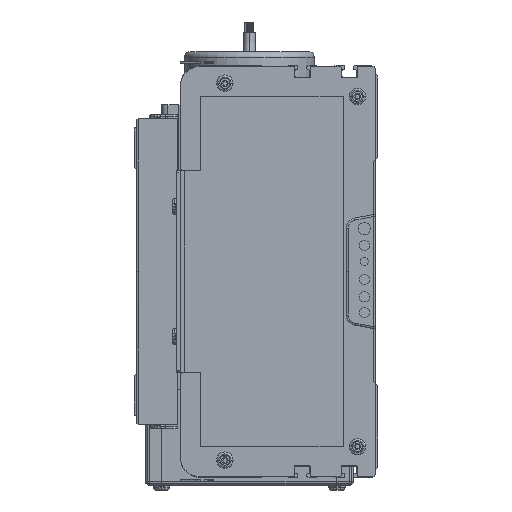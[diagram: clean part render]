
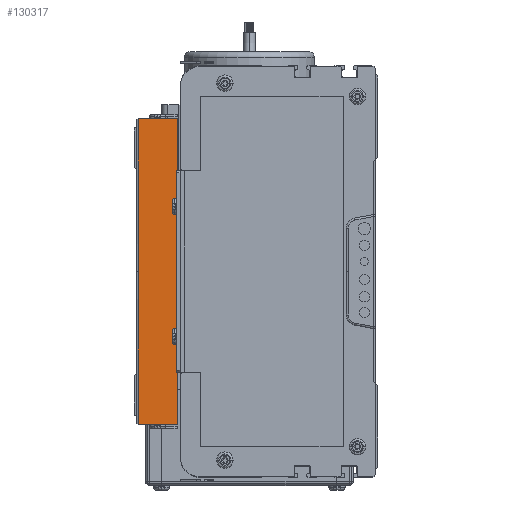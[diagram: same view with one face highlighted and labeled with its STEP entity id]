
A CAD part, left-side view. The second image highlights one B-rep face of the part: STEP entity #130317.
In plain terms, the highlighted planar face has unit normal (-1, 0, 0).
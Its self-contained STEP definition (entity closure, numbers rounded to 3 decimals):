
#25300 = CARTESIAN_POINT ( 'NONE',  ( 0., 0., 75. ) ) ;
#25711 = DIRECTION ( 'NONE',  ( 0., 0., 1. ) ) ;
#25712 = CARTESIAN_POINT ( 'NONE',  ( 0., 0., 0. ) ) ;
#25752 = VECTOR ( 'NONE', #25711, 1000. ) ;
#25764 = LINE ( 'NONE', #25712, #25752 ) ;
#27702 = DIRECTION ( 'NONE',  ( 0., -1., 0. ) ) ;
#27703 = VECTOR ( 'NONE', #27702, 1000. ) ;
#27704 = CARTESIAN_POINT ( 'NONE',  ( 0., 20., 75. ) ) ;
#27705 = LINE ( 'NONE', #27704, #27703 ) ;
#27715 = CARTESIAN_POINT ( 'NONE',  ( 0., 19., 75. ) ) ;
#31171 = DIRECTION ( 'NONE',  ( 0., 0., -1. ) ) ;
#31172 = VECTOR ( 'NONE', #31171, 1000. ) ;
#31173 = CARTESIAN_POINT ( 'NONE',  ( 0., 19., 0. ) ) ;
#31174 = LINE ( 'NONE', #31173, #31172 ) ;
#31254 = CARTESIAN_POINT ( 'NONE',  ( 0., 19., -75. ) ) ;
#35200 = EDGE_CURVE ( 'NONE', #44578, #130312, #31174, .T. ) ;
#35356 = VERTEX_POINT ( 'NONE', #31254 ) ;
#43469 = VERTEX_POINT ( 'NONE', #25300 ) ;
#44110 = EDGE_CURVE ( 'NONE', #82960, #43469, #25764, .T. ) ;
#44578 = VERTEX_POINT ( 'NONE', #27715 ) ;
#44588 = EDGE_CURVE ( 'NONE', #44578, #43469, #27705, .T. ) ;
#49512 = CARTESIAN_POINT ( 'NONE',  ( 0., 19., 0. ) ) ;
#49788 = DIRECTION ( 'NONE',  ( 0., 0., -1. ) ) ;
#49789 = DIRECTION ( 'NONE',  ( 1., 0., 0. ) ) ;
#49791 = CARTESIAN_POINT ( 'NONE',  ( 0., 20., 0. ) ) ;
#49792 = AXIS2_PLACEMENT_3D ( 'NONE', #49791, #49789, #49788 ) ;
#49813 = PLANE ( 'NONE',  #49792 ) ;
#49818 = FACE_OUTER_BOUND ( 'NONE', #131340, .T. ) ;
#50072 = DIRECTION ( 'NONE',  ( 0., 0., -1. ) ) ;
#50073 = VECTOR ( 'NONE', #50072, 1000. ) ;
#50075 = CARTESIAN_POINT ( 'NONE',  ( 0., 19., 0. ) ) ;
#50077 = LINE ( 'NONE', #50075, #50073 ) ;
#58009 = DIRECTION ( 'NONE',  ( 0., -1., 0. ) ) ;
#58010 = VECTOR ( 'NONE', #58009, 1000. ) ;
#58011 = CARTESIAN_POINT ( 'NONE',  ( 0., 20., -75. ) ) ;
#58012 = LINE ( 'NONE', #58011, #58010 ) ;
#82960 = VERTEX_POINT ( 'NONE', #151336 ) ;
#130281 = ORIENTED_EDGE ( 'NONE', *, *, #35200, .T. ) ;
#130309 = ORIENTED_EDGE ( 'NONE', *, *, #44588, .F. ) ;
#130312 = VERTEX_POINT ( 'NONE', #49512 ) ;
#130317 = ADVANCED_FACE ( 'NONE', ( #49818 ), #49813, .F. ) ;
#130366 = EDGE_CURVE ( 'NONE', #130312, #35356, #50077, .T. ) ;
#130684 = ORIENTED_EDGE ( 'NONE', *, *, #132006, .T. ) ;
#130989 = ORIENTED_EDGE ( 'NONE', *, *, #44110, .T. ) ;
#131340 = EDGE_LOOP ( 'NONE', ( #130309, #130281, #132010, #130684, #130989 ) ) ;
#132006 = EDGE_CURVE ( 'NONE', #35356, #82960, #58012, .T. ) ;
#132010 = ORIENTED_EDGE ( 'NONE', *, *, #130366, .T. ) ;
#151336 = CARTESIAN_POINT ( 'NONE',  ( 0., 0., -75. ) ) ;
